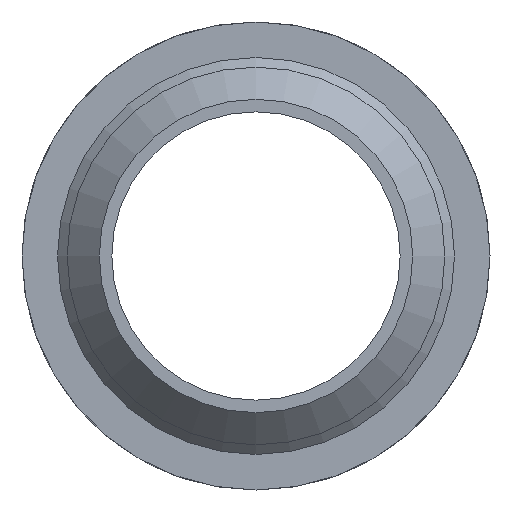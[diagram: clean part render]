
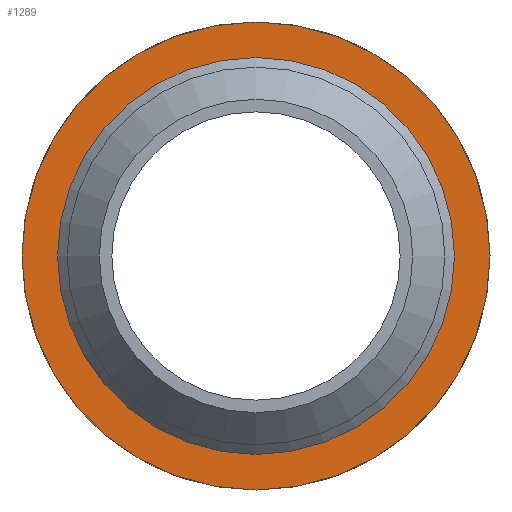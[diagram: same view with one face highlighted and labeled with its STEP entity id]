
A CAD part, left-side view. The second image highlights one B-rep face of the part: STEP entity #1289.
In plain terms, the highlighted planar face has unit normal (-1, 0, 0).
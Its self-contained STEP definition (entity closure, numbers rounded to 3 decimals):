
#199=CARTESIAN_POINT('',(-32.071,47.5,0.));
#200=VERTEX_POINT('',#199);
#201=CARTESIAN_POINT('',(-32.071,0.,0.));
#202=DIRECTION('',(1.0,0.0,0.0));
#203=DIRECTION('',(0.0,1.0,0.0));
#204=AXIS2_PLACEMENT_3D('',#201,#202,#203);
#205=CIRCLE('',#204,47.5);
#206=EDGE_CURVE('',#200,#200,#205,.T.);
#1270=CARTESIAN_POINT('',(-32.071,51.75,0.));
#1271=DIRECTION('',(-1.0,0.0,0.0));
#1272=DIRECTION('',(0.0,0.0,1.0));
#1273=AXIS2_PLACEMENT_3D('',#1270,#1271,#1272);
#1274=PLANE('',#1273);
#1275=CARTESIAN_POINT('',(-32.071,56.0,0.));
#1276=VERTEX_POINT('',#1275);
#1277=CARTESIAN_POINT('',(-32.071,0.,0.));
#1278=DIRECTION('',(1.0,0.0,0.0));
#1279=DIRECTION('',(0.0,1.0,0.0));
#1280=AXIS2_PLACEMENT_3D('',#1277,#1278,#1279);
#1281=CIRCLE('',#1280,56.0);
#1282=EDGE_CURVE('',#1276,#1276,#1281,.T.);
#1283=ORIENTED_EDGE('',*,*,#1282,.F.);
#1284=EDGE_LOOP('',(#1283));
#1285=FACE_OUTER_BOUND('',#1284,.T.);
#1286=ORIENTED_EDGE('',*,*,#206,.T.);
#1287=EDGE_LOOP('',(#1286));
#1288=FACE_BOUND('',#1287,.T.);
#1289=ADVANCED_FACE('',(#1285,#1288),#1274,.T.);
